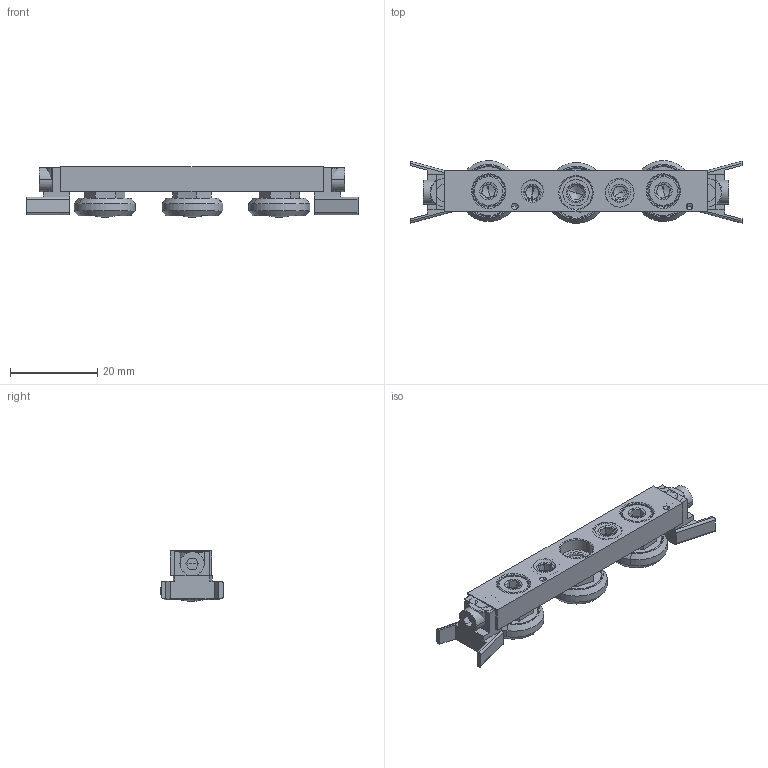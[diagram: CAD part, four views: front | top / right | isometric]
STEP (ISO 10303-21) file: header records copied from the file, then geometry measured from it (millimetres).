
FILE_DESCRIPTION (( 'STEP AP203' ), '1' );
FILE_NAME ('L1918.CSW18-060-2ZU.step', '2019-06-29T22:01:04', ( '' ), ( '' ), 'SwSTEP 2.0', 'SolidWorks 2017', '' );
FILE_SCHEMA (( 'CONFIG_CONTROL_DESIGN' ));
Length unit declared in the file: millimetre
Products named in the file (6): Part2; Part1_L1918.CSW18-060-2ZU; Part7; Part8; Part3; L1918.CSW18-060-2ZU
Assembly tree (15 placements, depth 2):
  L1918.CSW18-060-2ZU
    Part1_L1918.CSW18-060-2ZU
    Part8  x9
    Part2  x2
    Part3
    Part7  x2
Bounding box: 76 x 14.33 x 11.54 mm (x, y, z)
Volume: 6145.5 mm3; surface area: 6500 mm2
Topology: 15 solids, 15 shells, 429 faces, 996 edges, 605 vertices
Faces by surface type: plane 235, cone 100, cylinder 70, torus 24
Entity records: 6133 total; most frequent: CARTESIAN_POINT 995, DIRECTION 948, ORIENTED_EDGE 824, EDGE_CURVE 412, AXIS2_PLACEMENT_3D 357, VERTEX_POINT 263, VECTOR 234, LINE 234
